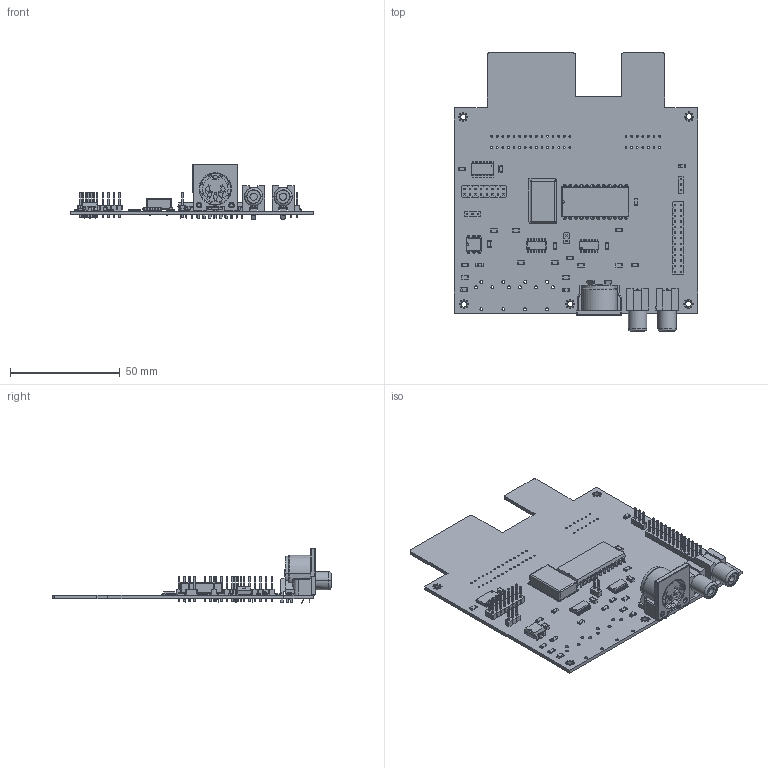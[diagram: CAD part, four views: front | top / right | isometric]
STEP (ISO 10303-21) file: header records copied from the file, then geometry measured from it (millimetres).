
FILE_DESCRIPTION(('KiCad electronic assembly'),'2;1');
FILE_NAME('MIDIcar.step','2022-10-20T07:56:10',('Pcbnew'),('Kicad'), 'Open CASCADE STEP processor 7.5','KiCad to STEP converter','Unknown' );
FILE_SCHEMA(('AUTOMOTIVE_DESIGN { 1 0 10303 214 1 1 1 1 }'));
Length unit declared in the file: millimetre
Products named in the file (32): MIDIcar 1; C_1206_3216Metric; SOLID; R_1206_3216Metric; D_MiniMELF; 57PC5FS; PinHeader_1x03_P2.54mm_Vertical; DIP-6_W7.62mm; DIP-24_W15.24mm; PinHeader_2x13_P2.54mm_Vertical; LED_1206_3216Metric; SOIC-14_3.9x8.7mm_P1.27mm; CUI_DEVICES_RCJ-046; PinHeader_2x08_P2.54mm_Vertical; PinHeader_1x02_P2.54mm_Vertical; Oscillator_DIP-14; SOIC-16W_5.3x10.2mm_P1.27mm; _autosave-MIDIcar PCB
Assembly tree (52 placements, depth 3):
  MIDIcar 1
    C_1206_3216Metric  x5
      SOLID
    R_1206_3216Metric  x13
      SOLID
    D_MiniMELF
      SOLID
    57PC5FS
      SOLID
    PinHeader_1x03_P2.54mm_Vertical  x2
      SOLID
    DIP-6_W7.62mm
      SOLID
    DIP-24_W15.24mm
      SOLID
    PinHeader_2x13_P2.54mm_Vertical
      SOLID
    LED_1206_3216Metric  x3
      SOLID
    SOIC-14_3.9x8.7mm_P1.27mm  x2
      SOLID
    CUI_DEVICES_RCJ-046  x2
      SOLID
    PinHeader_2x08_P2.54mm_Vertical
      SOLID
    PinHeader_1x02_P2.54mm_Vertical
      SOLID
    Oscillator_DIP-14
      SOLID
    SOIC-16W_5.3x10.2mm_P1.27mm
      SOLID
    _autosave-MIDIcar PCB
Bounding box: 110.65 x 126.45 x 25.3 mm (x, y, z)
Volume: 28556 mm3; surface area: 36276.3 mm2
Topology: 37 solids, 37 shells, 3898 faces, 10000 edges, 6348 vertices
Faces by surface type: bspline 3650, cylinder 206, plane 42
Full cylindrical faces by diameter (mm): 0.5 x40, 0.8 x54, 0.813 x24, 1 x50, 1.4 x21, 2.5 x5
Entity records: 188660 total; most frequent: CARTESIAN_POINT 66689, B_SPLINE_CURVE_WITH_KNOTS 19126, ORIENTED_EDGE 15206, PCURVE 15206, DEFINITIONAL_REPRESENTATION 15206, EDGE_CURVE 7603, SURFACE_CURVE 7396, VERTEX_POINT 4811
